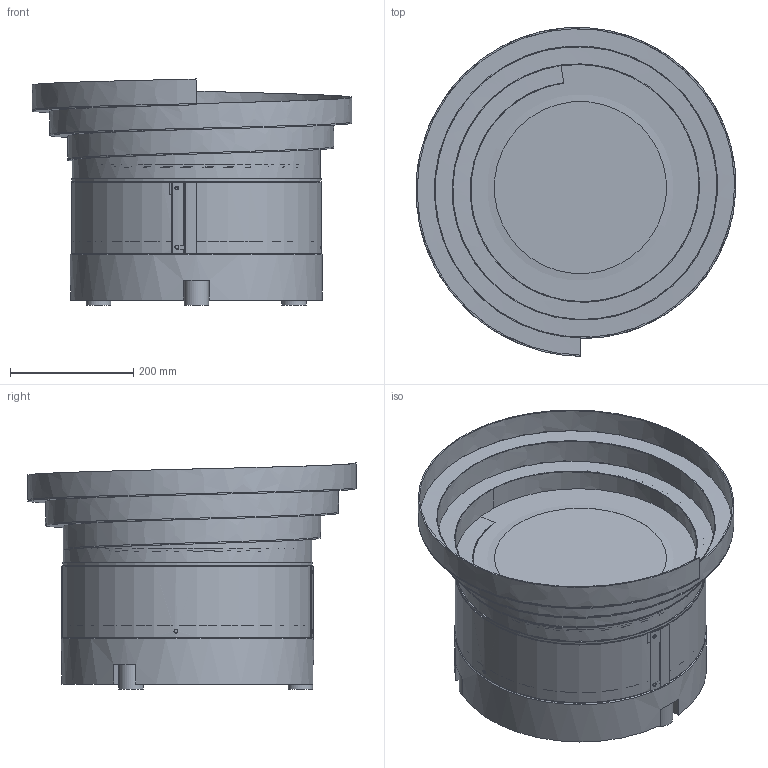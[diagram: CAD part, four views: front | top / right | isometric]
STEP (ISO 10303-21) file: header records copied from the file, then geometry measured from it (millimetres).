
FILE_DESCRIPTION(/* description */ (''),/* implementation_level */ '2;1');
FILE_NAME(/* name */ 'C:\Users\Rademacher\Dropbox neu\Dropbox\Konstruktion\Kaufteile\530-VWF-3D\530-220-1100-00-VWF16-Stufenaufsatz-links.stp',/* time_stamp */ '2020-01-14T11:58:35+01:00',/* author */ ('Rademacher'),/* organization */ (''),/* preprocessor_version */ 'ST-DEVELOPER v17',/* originating_system */ 'Autodesk Inventor 2019',/* authorisation */ '');
FILE_SCHEMA (('AUTOMOTIVE_DESIGN { 1 0 10303 214 3 1 1 }'));
Length unit declared in the file: millimetre
Products named in the file (10): 530-220-1100-00; 530-220-1100-01-Unterteil-neu; 530 220-1100-02-Oberteil; 530-220-1100-16-Abdeckung; 530-220-1100-17-Mantel-1; 530-220-1100-17-Mantel-2; 520-220-1100-18-Lasche-groß; 520-220-1100-19-Lasche-klein; Elastikpuffer-40-40-M8; VWF16 Stufenaufsatz links
Assembly tree (13 placements, depth 3):
  530-220-1100-00
    530-220-1100-01-Unterteil-neu
    530 220-1100-02-Oberteil
    530-220-1100-16-Abdeckung
      530-220-1100-17-Mantel-1
      530-220-1100-17-Mantel-2
      520-220-1100-18-Lasche-groß  x2
      520-220-1100-19-Lasche-klein  x2
    Elastikpuffer-40-40-M8  x3
    VWF16 Stufenaufsatz links
Bounding box: 519.77 x 534.56 x 367.5 mm (x, y, z)
Volume: 12316593.2 mm3; surface area: 1845459.6 mm2
Topology: 12 solids, 13 shells, 294 faces, 923 edges, 659 vertices
Faces by surface type: cylinder 110, cone 84, plane 79, bspline 21
Full cylindrical faces by diameter (mm): 3.3 x11, 5 x38, 6.8 x30, 8.5 x3, 40 x3, 210 x1, 255 x1, 280 x1, 400 x2, 404 x2, 407 x1, 410 x1
Entity records: 18295 total; most frequent: CARTESIAN_POINT 10348, DIRECTION 1708, ORIENTED_EDGE 1460, EDGE_CURVE 730, AXIS2_PLACEMENT_3D 698, VERTEX_POINT 566, CIRCLE 427, EDGE_LOOP 362
